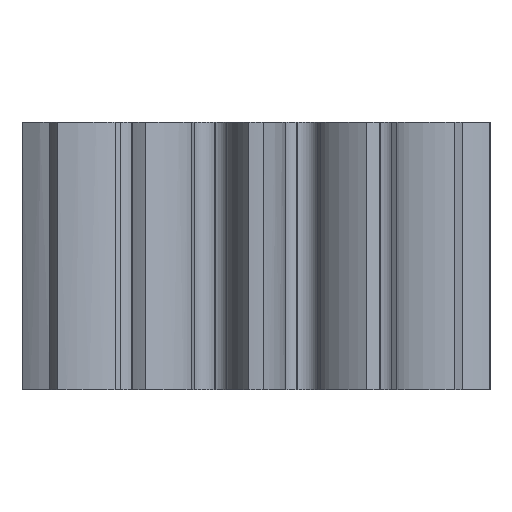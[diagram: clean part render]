
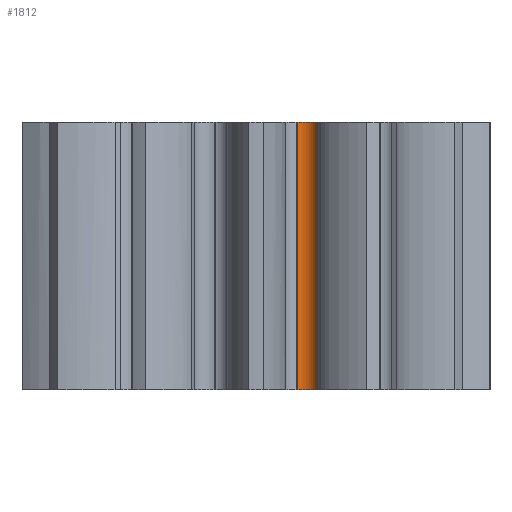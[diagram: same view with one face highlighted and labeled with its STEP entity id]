
A CAD part, front view. The second image highlights one B-rep face of the part: STEP entity #1812.
In plain terms, the highlighted cylindrical face has radius 0.5 mm (diameter 1 mm), a partial arc.
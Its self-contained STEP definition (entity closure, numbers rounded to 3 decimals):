
#128=FACE_OUTER_BOUND('',#226,.T.);
#226=EDGE_LOOP('',(#1313,#1314,#1315,#1316));
#351=LINE('',#5036,#495);
#352=LINE('',#5039,#496);
#495=VECTOR('',#2253,10.);
#496=VECTOR('',#2256,10.);
#610=CIRCLE('',#1929,0.5);
#654=CIRCLE('',#1977,0.5);
#719=VERTEX_POINT('',#3377);
#720=VERTEX_POINT('',#3379);
#804=VERTEX_POINT('',#5035);
#805=VERTEX_POINT('',#5037);
#918=EDGE_CURVE('',#720,#719,#610,.T.);
#1006=EDGE_CURVE('',#719,#804,#351,.T.);
#1007=EDGE_CURVE('',#804,#805,#654,.T.);
#1008=EDGE_CURVE('',#805,#720,#352,.T.);
#1313=ORIENTED_EDGE('',*,*,#918,.T.);
#1314=ORIENTED_EDGE('',*,*,#1006,.T.);
#1315=ORIENTED_EDGE('',*,*,#1007,.T.);
#1316=ORIENTED_EDGE('',*,*,#1008,.T.);
#1758=CYLINDRICAL_SURFACE('',#1976,0.5);
#1812=ADVANCED_FACE('',(#128),#1758,.F.);
#1929=AXIS2_PLACEMENT_3D('',#3380,#2133,#2134);
#1976=AXIS2_PLACEMENT_3D('',#5034,#2251,#2252);
#1977=AXIS2_PLACEMENT_3D('',#5038,#2254,#2255);
#2133=DIRECTION('center_axis',(0.,0.,-1.));
#2134=DIRECTION('ref_axis',(0.452,0.892,0.));
#2251=DIRECTION('center_axis',(0.,0.,1.));
#2252=DIRECTION('ref_axis',(0.452,0.892,0.));
#2253=DIRECTION('',(0.,0.,1.));
#2254=DIRECTION('center_axis',(0.,0.,1.));
#2255=DIRECTION('ref_axis',(0.452,0.892,0.));
#2256=DIRECTION('',(0.,0.,-1.));
#3377=CARTESIAN_POINT('',(1.853,-4.884,0.));
#3379=CARTESIAN_POINT('',(1.254,-4.581,0.));
#3380=CARTESIAN_POINT('Origin',(1.386,-5.063,0.));
#5034=CARTESIAN_POINT('Origin',(1.386,-5.063,0.));
#5035=CARTESIAN_POINT('',(1.853,-4.884,8.));
#5036=CARTESIAN_POINT('',(1.853,-4.884,0.));
#5037=CARTESIAN_POINT('',(1.254,-4.581,8.));
#5038=CARTESIAN_POINT('Origin',(1.386,-5.063,8.));
#5039=CARTESIAN_POINT('',(1.254,-4.581,0.));
